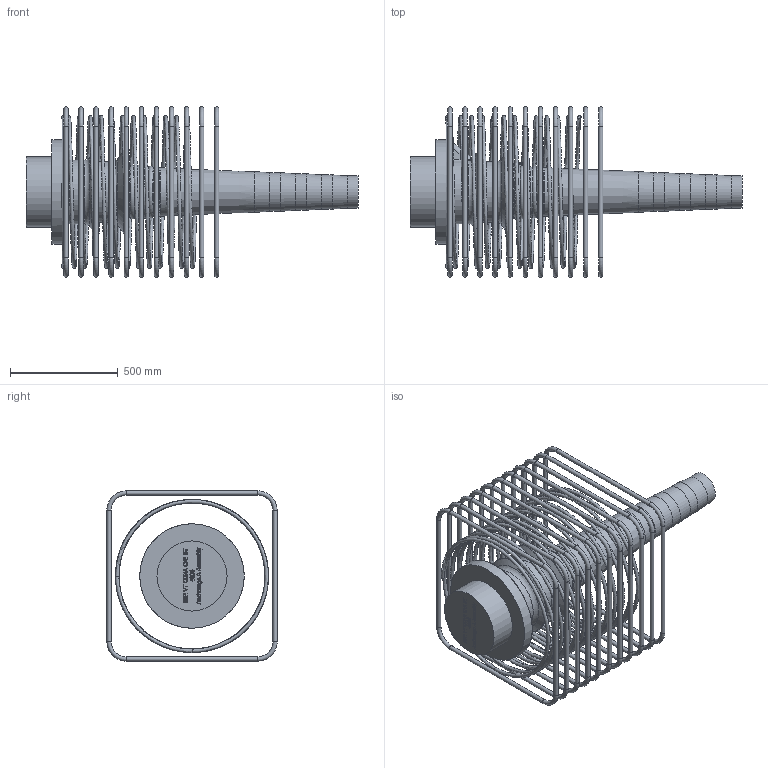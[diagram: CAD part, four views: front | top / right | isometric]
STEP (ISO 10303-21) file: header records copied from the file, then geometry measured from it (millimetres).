
FILE_DESCRIPTION(/* description */ (''),/* implementation_level */ '2;1');
FILE_NAME(/* name */ 'Z:\04 Publications\05 Give-out\BBR\6_3D_Models\BBR VT CONA CMI\BBR VT CONA CMI BT\04806\BBR VT CONA CMI BT 4806_Anchorage A Assembly_CS-34,28.stp',/* time_stamp */ '2017-05-05T11:13:11+02:00',/* author */ ('IP'),/* organization */ (''),/* preprocessor_version */ 'ST-DEVELOPER v16.1',/* originating_system */ 'Autodesk Inventor 2016',/* authorisation */ '');
FILE_SCHEMA (('AUTOMOTIVE_DESIGN { 1 0 10303 214 3 1 1 }'));
Length unit declared in the file: millimetre
Products named in the file (1): BBR VT CONA CMI BT 4806_Anchorage A Assembly_CS-34,28
Bounding box: 1540.46 x 790 x 790 mm (x, y, z)
Volume: 89748231.7 mm3; surface area: 5091978.2 mm2
Topology: 13 solids, 13 shells, 798 faces, 2049 edges, 1314 vertices
Faces by surface type: plane 327, bspline 315, torus 79, cylinder 64, cone 11, sphere 2
Full cylindrical faces by diameter (mm): 20 x44, 35 x1, 57 x1, 149 x1, 159 x1, 169 x1, 179 x1, 282 x1, 325 x1, 377 x1, 390 x1, 485 x1
Entity records: 32162 total; most frequent: CARTESIAN_POINT 14598, ORIENTED_EDGE 3814, DIRECTION 2422, EDGE_CURVE 1907, VERTEX_POINT 1307, LINE 1072, VECTOR 1072, EDGE_LOOP 994
